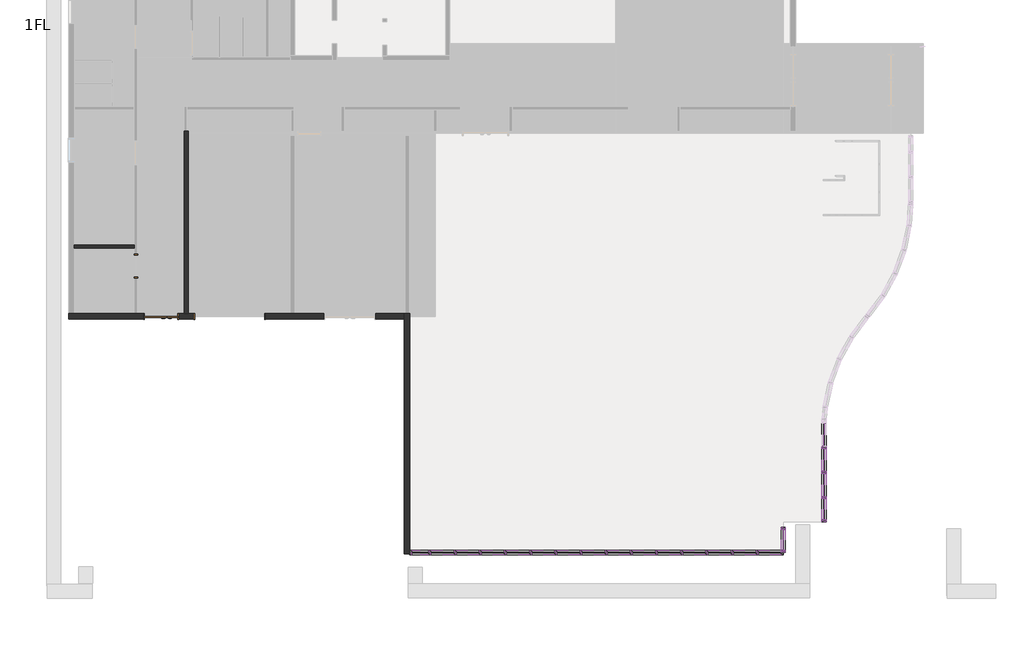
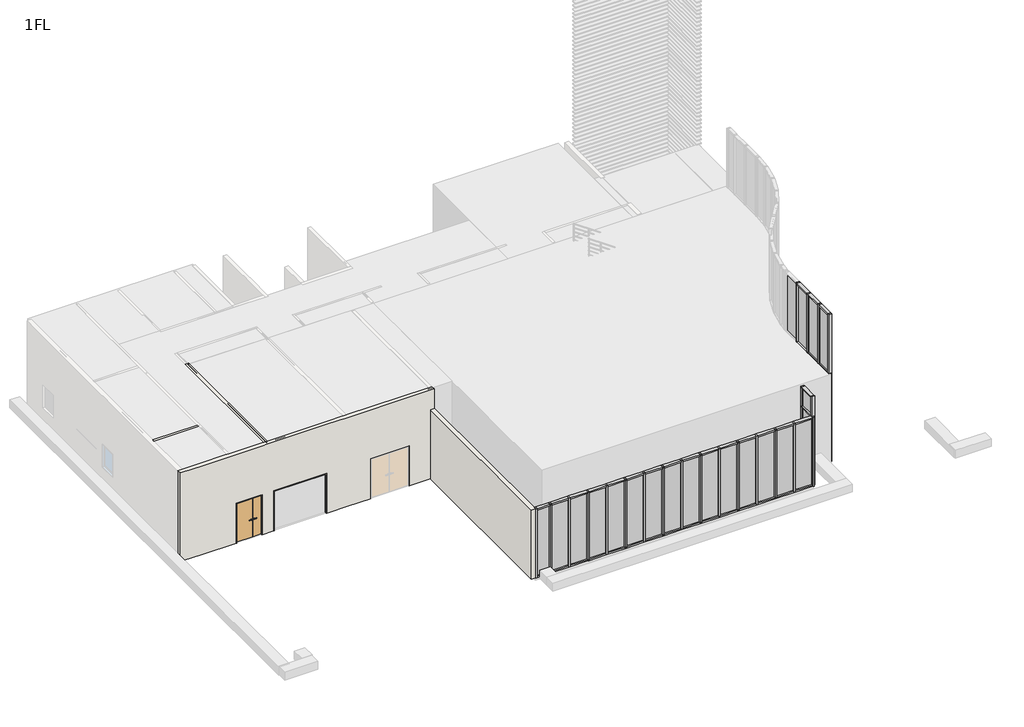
# One storey, part 1 of 4: 78 members, 29 plates, 4 walls, 3 doors.
"""IFC4 building model written with IfcOpenShell, lengths in millimetres."""

from ifc_helpers import new_model, si_unit, frame, origin, place, context, project, spatial, polyline, outline, extrude, faceted_brep, transform, mapped, element, save
from components import door_95390efa, w2500h2000_2_3d9daec4, w800h2000_d76b1b72, member_70x150_cdd4dcf9, member_70x150_9a135ce4, member_70x150_66cf63de, member_70x150_ad4265bc, member_70x150_e0eddb57, member_70x150_76429c73, member_70x150_1b280ac3, member_70x150_96cc92f8, member_70x150_9f54f7b5, member_70x150_bd41fb14, member_70x150_f8cbd96f, member_70x150_4e68411c, plate_28587fd3, plate_4b01b467, plate_83f08a3e, plate_c7cfdf11, plate_46c09de8, plate_d9257b88, plate_582e668a, plate_d9f6aecc

model = new_model("IFC4")

# Units and contexts
model_context = context("Model", 3, world=origin())
ifc_project = project(units=[si_unit("LENGTHUNIT", "METRE", prefix="MILLI")], contexts=[model_context])

# Site, building, storey
site = spatial("IfcSite", under=ifc_project)
building = spatial("IfcBuilding", under=site)
storey = spatial("IfcBuildingStorey", under=building, Name="1FL", Elevation=100.0)

# Doors
placement = place(None, origin())
door_shape = door_95390efa(model_context)
element("IfcDoor", 1, ObjectType="両開き戸 : 親子開き：w1200h2000", at=placement, inside=storey, context=model_context, shape_type="MappedRepresentation", body=[
    mapped(door_shape, transform((-25654.4500107, 3899.6868987, 100.0), x_axis=(-1.0, 0.0, 0.0), y_axis=(0.0, -1.0, 0.0), z_axis=(0.0, 0.0, 1.0))),
])
w2500h2000_2_shape = w2500h2000_2_3d9daec4(model_context)
element("IfcDoor", 2, ObjectType="開口枠あり : w2500h2000 2", at=placement, inside=storey, context=model_context, shape_type="MappedRepresentation", body=[
    mapped(w2500h2000_2_shape, transform((-23195.9784025, 3899.6868987, 100.0), x_axis=(-1.0, 0.0, 0.0), y_axis=(0.0, -1.0, 0.0), z_axis=(0.0, 0.0, 1.0))),
])
w800h2000_shape = w800h2000_d76b1b72(model_context)
element("IfcDoor", 3, ObjectType="開口枠あり : w800h2000", at=placement, inside=storey, context=model_context, shape_type="MappedRepresentation", body=[
    mapped(w800h2000_shape, transform((-26545.9784025, 5699.6868987, 100.0), x_axis=(0.0, 1.0, 0.0), y_axis=(-1.0, 0.0, 0.0), z_axis=(0.0, 0.0, 1.0))),
])

# Members
member_70x150_shape = member_70x150_cdd4dcf9(model_context)
element("IfcMember", 4, ObjectType="長方形のマリオン : 70x150", at=placement, inside=storey, context=model_context, shape_type="MappedRepresentation", body=[
    mapped(member_70x150_shape, transform((-1945.9784025, -2585.3131013, 100.0), x_axis=(0.0, 1.0, 0.0), y_axis=(1.0, 0.0, 0.0), z_axis=(0.0, 0.0, -1.0))),
])
element("IfcMember", 5, ObjectType="長方形のマリオン : 70x150", at=placement, inside=storey, context=model_context, shape_type="MappedRepresentation", body=[
    mapped(member_70x150_shape, transform((-1945.9784025, -1685.3131013, 100.0), x_axis=(0.0, 1.0, 0.0), y_axis=(1.0, 0.0, 0.0), z_axis=(0.0, 0.0, -1.0))),
])
element("IfcMember", 6, ObjectType="長方形のマリオン : 70x150", at=placement, inside=storey, context=model_context, shape_type="MappedRepresentation", body=[
    mapped(member_70x150_shape, transform((-1945.9784025, -785.3131013, 100.0), x_axis=(0.0, 1.0, 0.0), y_axis=(1.0, 0.0, 0.0), z_axis=(0.0, 0.0, -1.0))),
])
member_70x150_2_shape = member_70x150_9a135ce4(model_context)
element("IfcMember", 7, ObjectType="長方形のマリオン : 70x150", at=placement, inside=storey, context=model_context, shape_type="MappedRepresentation", body=[
    mapped(member_70x150_2_shape, transform((-3395.9784025, -4480.3131013, 4600.0), x_axis=(0.0, 0.0, 1.0), y_axis=(-1.0, 0.0, 0.0), z_axis=(0.0, -1.0, 0.0))),
])
element("IfcMember", 8, ObjectType="長方形のマリオン : 70x150", at=placement, inside=storey, context=model_context, shape_type="MappedRepresentation", body=[
    mapped(member_70x150_2_shape, transform((-1945.9784025, -2620.3131013, 7600.0), x_axis=(0.0, 0.0, 1.0), y_axis=(1.0, 0.0, 0.0), z_axis=(0.0, 1.0, 0.0))),
])
member_70x150_3_shape = member_70x150_66cf63de(model_context)
element("IfcMember", 9, ObjectType="長方形のマリオン : 70x150", at=placement, inside=storey, context=model_context, shape_type="MappedRepresentation", body=[
    mapped(member_70x150_3_shape, transform((-8865.9784025, -4550.3131013, 100.0), x_axis=(0.0, 0.0, -1.0), y_axis=(0.0, 1.0, 0.0), z_axis=(1.0, 0.0, 0.0))),
])
element("IfcMember", 10, ObjectType="長方形のマリオン : 70x150", at=placement, inside=storey, context=model_context, shape_type="MappedRepresentation", body=[
    mapped(member_70x150_3_shape, transform((-7965.9784025, -4550.3131013, 100.0), x_axis=(0.0, 0.0, -1.0), y_axis=(0.0, 1.0, 0.0), z_axis=(1.0, 0.0, 0.0))),
])
element("IfcMember", 11, ObjectType="長方形のマリオン : 70x150", at=placement, inside=storey, context=model_context, shape_type="MappedRepresentation", body=[
    mapped(member_70x150_3_shape, transform((-7065.9784025, -4550.3131013, 100.0), x_axis=(0.0, 0.0, -1.0), y_axis=(0.0, 1.0, 0.0), z_axis=(1.0, 0.0, 0.0))),
])
element("IfcMember", 12, ObjectType="長方形のマリオン : 70x150", at=placement, inside=storey, context=model_context, shape_type="MappedRepresentation", body=[
    mapped(member_70x150_3_shape, transform((-6165.9784025, -4550.3131013, 100.0), x_axis=(0.0, 0.0, -1.0), y_axis=(0.0, 1.0, 0.0), z_axis=(1.0, 0.0, 0.0))),
])
element("IfcMember", 13, ObjectType="長方形のマリオン : 70x150", at=placement, inside=storey, context=model_context, shape_type="MappedRepresentation", body=[
    mapped(member_70x150_3_shape, transform((-5265.9784025, -4550.3131013, 100.0), x_axis=(0.0, 0.0, -1.0), y_axis=(0.0, 1.0, 0.0), z_axis=(1.0, 0.0, 0.0))),
])
element("IfcMember", 14, ObjectType="長方形のマリオン : 70x150", at=placement, inside=storey, context=model_context, shape_type="MappedRepresentation", body=[
    mapped(member_70x150_3_shape, transform((-4365.9784025, -4550.3131013, 100.0), x_axis=(0.0, 0.0, -1.0), y_axis=(0.0, 1.0, 0.0), z_axis=(1.0, 0.0, 0.0))),
])
element("IfcMember", 15, ObjectType="長方形のマリオン : 70x150", at=placement, inside=storey, context=model_context, shape_type="MappedRepresentation", body=[
    mapped(member_70x150_3_shape, transform((-3465.9784025, -4550.3131013, 100.0), x_axis=(0.0, 0.0, -1.0), y_axis=(0.0, 1.0, 0.0), z_axis=(1.0, 0.0, 0.0))),
])
element("IfcMember", 16, ObjectType="長方形のマリオン : 70x150", at=placement, inside=storey, context=model_context, shape_type="MappedRepresentation", body=[
    mapped(member_70x150_3_shape, transform((-15165.9784025, -4550.3131013, 100.0), x_axis=(0.0, 0.0, -1.0), y_axis=(0.0, 1.0, 0.0), z_axis=(1.0, 0.0, 0.0))),
])
element("IfcMember", 17, ObjectType="長方形のマリオン : 70x150", at=placement, inside=storey, context=model_context, shape_type="MappedRepresentation", body=[
    mapped(member_70x150_3_shape, transform((-14265.9784025, -4550.3131013, 100.0), x_axis=(0.0, 0.0, -1.0), y_axis=(0.0, 1.0, 0.0), z_axis=(1.0, 0.0, 0.0))),
])
element("IfcMember", 18, ObjectType="長方形のマリオン : 70x150", at=placement, inside=storey, context=model_context, shape_type="MappedRepresentation", body=[
    mapped(member_70x150_3_shape, transform((-13365.9784025, -4550.3131013, 100.0), x_axis=(0.0, 0.0, -1.0), y_axis=(0.0, 1.0, 0.0), z_axis=(1.0, 0.0, 0.0))),
])
element("IfcMember", 19, ObjectType="長方形のマリオン : 70x150", at=placement, inside=storey, context=model_context, shape_type="MappedRepresentation", body=[
    mapped(member_70x150_3_shape, transform((-12465.9784025, -4550.3131013, 100.0), x_axis=(0.0, 0.0, -1.0), y_axis=(0.0, 1.0, 0.0), z_axis=(1.0, 0.0, 0.0))),
])
element("IfcMember", 20, ObjectType="長方形のマリオン : 70x150", at=placement, inside=storey, context=model_context, shape_type="MappedRepresentation", body=[
    mapped(member_70x150_3_shape, transform((-11565.9784025, -4550.3131013, 100.0), x_axis=(0.0, 0.0, -1.0), y_axis=(0.0, 1.0, 0.0), z_axis=(1.0, 0.0, 0.0))),
])
element("IfcMember", 21, ObjectType="長方形のマリオン : 70x150", at=placement, inside=storey, context=model_context, shape_type="MappedRepresentation", body=[
    mapped(member_70x150_3_shape, transform((-10665.9784025, -4550.3131013, 100.0), x_axis=(0.0, 0.0, -1.0), y_axis=(0.0, 1.0, 0.0), z_axis=(1.0, 0.0, 0.0))),
])
element("IfcMember", 22, ObjectType="長方形のマリオン : 70x150", at=placement, inside=storey, context=model_context, shape_type="MappedRepresentation", body=[
    mapped(member_70x150_3_shape, transform((-9765.9784025, -4550.3131013, 100.0), x_axis=(0.0, 0.0, -1.0), y_axis=(0.0, 1.0, 0.0), z_axis=(1.0, 0.0, 0.0))),
])
element("IfcMember", 23, ObjectType="長方形のマリオン : 70x150", at=placement, inside=storey, context=model_context, shape_type="MappedRepresentation", body=[
    mapped(member_70x150_3_shape, transform((-1945.9784025, -2550.3131013, 100.0), x_axis=(0.0, 0.0, -1.0), y_axis=(1.0, 0.0, 0.0), z_axis=(0.0, -1.0, 0.0))),
])
element("IfcMember", 24, ObjectType="長方形のマリオン : 70x150", at=placement, inside=storey, context=model_context, shape_type="MappedRepresentation", body=[
    mapped(member_70x150_3_shape, transform((-1945.9784025, -1650.3131013, 100.0), x_axis=(0.0, 0.0, -1.0), y_axis=(1.0, 0.0, 0.0), z_axis=(0.0, -1.0, 0.0))),
])
element("IfcMember", 25, ObjectType="長方形のマリオン : 70x150", at=placement, inside=storey, context=model_context, shape_type="MappedRepresentation", body=[
    mapped(member_70x150_3_shape, transform((-1945.9784025, -750.3131013, 100.0), x_axis=(0.0, 0.0, -1.0), y_axis=(1.0, 0.0, 0.0), z_axis=(0.0, -1.0, 0.0))),
])
element("IfcMember", 26, ObjectType="長方形のマリオン : 70x150", at=placement, inside=storey, context=model_context, shape_type="MappedRepresentation", body=[
    mapped(member_70x150_3_shape, transform((-15995.9784025, -4550.3131013, 3600.0), x_axis=(0.0, 0.0, 1.0), y_axis=(0.0, 1.0, 0.0), z_axis=(-1.0, 0.0, 0.0))),
])
element("IfcMember", 27, ObjectType="長方形のマリオン : 70x150", at=placement, inside=storey, context=model_context, shape_type="MappedRepresentation", body=[
    mapped(member_70x150_3_shape, transform((-15095.9784025, -4550.3131013, 3600.0), x_axis=(0.0, 0.0, 1.0), y_axis=(0.0, 1.0, 0.0), z_axis=(-1.0, 0.0, 0.0))),
])
element("IfcMember", 28, ObjectType="長方形のマリオン : 70x150", at=placement, inside=storey, context=model_context, shape_type="MappedRepresentation", body=[
    mapped(member_70x150_3_shape, transform((-14195.9784025, -4550.3131013, 3600.0), x_axis=(0.0, 0.0, 1.0), y_axis=(0.0, 1.0, 0.0), z_axis=(-1.0, 0.0, 0.0))),
])
element("IfcMember", 29, ObjectType="長方形のマリオン : 70x150", at=placement, inside=storey, context=model_context, shape_type="MappedRepresentation", body=[
    mapped(member_70x150_3_shape, transform((-13295.9784025, -4550.3131013, 3600.0), x_axis=(0.0, 0.0, 1.0), y_axis=(0.0, 1.0, 0.0), z_axis=(-1.0, 0.0, 0.0))),
])
element("IfcMember", 30, ObjectType="長方形のマリオン : 70x150", at=placement, inside=storey, context=model_context, shape_type="MappedRepresentation", body=[
    mapped(member_70x150_3_shape, transform((-12395.9784025, -4550.3131013, 3600.0), x_axis=(0.0, 0.0, 1.0), y_axis=(0.0, 1.0, 0.0), z_axis=(-1.0, 0.0, 0.0))),
])
element("IfcMember", 31, ObjectType="長方形のマリオン : 70x150", at=placement, inside=storey, context=model_context, shape_type="MappedRepresentation", body=[
    mapped(member_70x150_3_shape, transform((-11495.9784025, -4550.3131013, 3600.0), x_axis=(0.0, 0.0, 1.0), y_axis=(0.0, 1.0, 0.0), z_axis=(-1.0, 0.0, 0.0))),
])
element("IfcMember", 32, ObjectType="長方形のマリオン : 70x150", at=placement, inside=storey, context=model_context, shape_type="MappedRepresentation", body=[
    mapped(member_70x150_3_shape, transform((-10595.9784025, -4550.3131013, 3600.0), x_axis=(0.0, 0.0, 1.0), y_axis=(0.0, 1.0, 0.0), z_axis=(-1.0, 0.0, 0.0))),
])
element("IfcMember", 33, ObjectType="長方形のマリオン : 70x150", at=placement, inside=storey, context=model_context, shape_type="MappedRepresentation", body=[
    mapped(member_70x150_3_shape, transform((-9695.9784025, -4550.3131013, 3600.0), x_axis=(0.0, 0.0, 1.0), y_axis=(0.0, 1.0, 0.0), z_axis=(-1.0, 0.0, 0.0))),
])
element("IfcMember", 34, ObjectType="長方形のマリオン : 70x150", at=placement, inside=storey, context=model_context, shape_type="MappedRepresentation", body=[
    mapped(member_70x150_3_shape, transform((-8795.9784025, -4550.3131013, 3600.0), x_axis=(0.0, 0.0, 1.0), y_axis=(0.0, 1.0, 0.0), z_axis=(-1.0, 0.0, 0.0))),
])
element("IfcMember", 35, ObjectType="長方形のマリオン : 70x150", at=placement, inside=storey, context=model_context, shape_type="MappedRepresentation", body=[
    mapped(member_70x150_3_shape, transform((-7895.9784025, -4550.3131013, 3600.0), x_axis=(0.0, 0.0, 1.0), y_axis=(0.0, 1.0, 0.0), z_axis=(-1.0, 0.0, 0.0))),
])
element("IfcMember", 36, ObjectType="長方形のマリオン : 70x150", at=placement, inside=storey, context=model_context, shape_type="MappedRepresentation", body=[
    mapped(member_70x150_3_shape, transform((-6995.9784025, -4550.3131013, 3600.0), x_axis=(0.0, 0.0, 1.0), y_axis=(0.0, 1.0, 0.0), z_axis=(-1.0, 0.0, 0.0))),
])
element("IfcMember", 37, ObjectType="長方形のマリオン : 70x150", at=placement, inside=storey, context=model_context, shape_type="MappedRepresentation", body=[
    mapped(member_70x150_3_shape, transform((-6095.9784025, -4550.3131013, 3600.0), x_axis=(0.0, 0.0, 1.0), y_axis=(0.0, 1.0, 0.0), z_axis=(-1.0, 0.0, 0.0))),
])
element("IfcMember", 38, ObjectType="長方形のマリオン : 70x150", at=placement, inside=storey, context=model_context, shape_type="MappedRepresentation", body=[
    mapped(member_70x150_3_shape, transform((-5195.9784025, -4550.3131013, 3600.0), x_axis=(0.0, 0.0, 1.0), y_axis=(0.0, 1.0, 0.0), z_axis=(-1.0, 0.0, 0.0))),
])
element("IfcMember", 39, ObjectType="長方形のマリオン : 70x150", at=placement, inside=storey, context=model_context, shape_type="MappedRepresentation", body=[
    mapped(member_70x150_3_shape, transform((-4295.9784025, -4550.3131013, 3600.0), x_axis=(0.0, 0.0, 1.0), y_axis=(0.0, 1.0, 0.0), z_axis=(-1.0, 0.0, 0.0))),
])
element("IfcMember", 40, ObjectType="長方形のマリオン : 70x150", at=placement, inside=storey, context=model_context, shape_type="MappedRepresentation", body=[
    mapped(member_70x150_3_shape, transform((-1945.9784025, -1720.3131013, 7600.0), x_axis=(0.0, 0.0, 1.0), y_axis=(1.0, 0.0, 0.0), z_axis=(0.0, 1.0, 0.0))),
])
element("IfcMember", 41, ObjectType="長方形のマリオン : 70x150", at=placement, inside=storey, context=model_context, shape_type="MappedRepresentation", body=[
    mapped(member_70x150_3_shape, transform((-1945.9784025, -820.3131013, 7600.0), x_axis=(0.0, 0.0, 1.0), y_axis=(1.0, 0.0, 0.0), z_axis=(0.0, 1.0, 0.0))),
])
element("IfcMember", 42, ObjectType="長方形のマリオン : 70x150", at=placement, inside=storey, context=model_context, shape_type="MappedRepresentation", body=[
    mapped(member_70x150_2_shape, transform((-3395.9784025, -3720.3131013, 100.0), x_axis=(0.0, 0.0, -1.0), y_axis=(-1.0, 0.0, 0.0), z_axis=(0.0, 1.0, 0.0))),
])
element("IfcMember", 43, ObjectType="長方形のマリオン : 70x150", at=placement, inside=storey, context=model_context, shape_type="MappedRepresentation", body=[
    mapped(member_70x150_2_shape, transform((-1945.9784025, -3380.3131013, 100.0), x_axis=(0.0, 0.0, -1.0), y_axis=(1.0, 0.0, 0.0), z_axis=(0.0, -1.0, 0.0))),
])
member_70x150_4_shape = member_70x150_ad4265bc(model_context)
element("IfcMember", 44, ObjectType="長方形のマリオン : 70x150", at=placement, inside=storey, context=model_context, shape_type="MappedRepresentation", body=[
    mapped(member_70x150_4_shape, transform((-1945.9784025, -1720.3131013, 3100.0), x_axis=(0.0, 0.0, 1.0), y_axis=(1.0, 0.0, 0.0), z_axis=(0.0, 1.0, 0.0))),
])
element("IfcMember", 45, ObjectType="長方形のマリオン : 70x150", at=placement, inside=storey, context=model_context, shape_type="MappedRepresentation", body=[
    mapped(member_70x150_4_shape, transform((-1945.9784025, -820.3131013, 3100.0), x_axis=(0.0, 0.0, 1.0), y_axis=(1.0, 0.0, 0.0), z_axis=(0.0, 1.0, 0.0))),
])
element("IfcMember", 46, ObjectType="長方形のマリオン : 70x150", at=placement, inside=storey, context=model_context, shape_type="MappedRepresentation", body=[
    mapped(member_70x150_4_shape, transform((-1945.9784025, -1720.3131013, 4600.0), x_axis=(0.0, 0.0, 1.0), y_axis=(1.0, 0.0, 0.0), z_axis=(0.0, 1.0, 0.0))),
])
element("IfcMember", 47, ObjectType="長方形のマリオン : 70x150", at=placement, inside=storey, context=model_context, shape_type="MappedRepresentation", body=[
    mapped(member_70x150_4_shape, transform((-1945.9784025, -820.3131013, 4600.0), x_axis=(0.0, 0.0, 1.0), y_axis=(1.0, 0.0, 0.0), z_axis=(0.0, 1.0, 0.0))),
])
member_70x150_5_shape = member_70x150_e0eddb57(model_context)
element("IfcMember", 48, ObjectType="長方形のマリオン : 70x150", at=placement, inside=storey, context=model_context, shape_type="MappedRepresentation", body=[
    mapped(member_70x150_5_shape, transform((-3395.9784025, -4480.3131013, 3600.0), x_axis=(0.0, 0.0, 1.0), y_axis=(-1.0, 0.0, 0.0), z_axis=(0.0, -1.0, 0.0))),
])
element("IfcMember", 49, ObjectType="長方形のマリオン : 70x150", at=placement, inside=storey, context=model_context, shape_type="MappedRepresentation", body=[
    mapped(member_70x150_5_shape, transform((-1945.9784025, -2620.3131013, 3100.0), x_axis=(0.0, 0.0, 1.0), y_axis=(1.0, 0.0, 0.0), z_axis=(0.0, 1.0, 0.0))),
])
element("IfcMember", 50, ObjectType="長方形のマリオン : 70x150", at=placement, inside=storey, context=model_context, shape_type="MappedRepresentation", body=[
    mapped(member_70x150_5_shape, transform((-1945.9784025, -2620.3131013, 4600.0), x_axis=(0.0, 0.0, 1.0), y_axis=(1.0, 0.0, 0.0), z_axis=(0.0, 1.0, 0.0))),
])
member_70x150_6_shape = member_70x150_76429c73(model_context)
element("IfcMember", 51, ObjectType="長方形のマリオン : 70x150", at=placement, inside=storey, context=model_context, shape_type="MappedRepresentation", body=[
    mapped(member_70x150_6_shape, transform((-3395.9784025, -3650.3131013, 4600.0), x_axis=(0.0, 1.0, 0.0), y_axis=(-1.0, 0.0, 0.0), z_axis=(0.0, 0.0, 1.0))),
])
element("IfcMember", 52, ObjectType="長方形のマリオン : 70x150", at=placement, inside=storey, context=model_context, shape_type="MappedRepresentation", body=[
    mapped(member_70x150_6_shape, transform((-3395.9784025, -4550.3131013, 3600.0), x_axis=(0.0, -1.0, 0.0), y_axis=(-1.0, 0.0, 0.0), z_axis=(0.0, 0.0, -1.0))),
])
member_70x150_7_shape = member_70x150_1b280ac3(model_context)
element("IfcMember", 53, ObjectType="長方形のマリオン : 70x150", at=placement, inside=storey, context=model_context, shape_type="MappedRepresentation", body=[
    mapped(member_70x150_7_shape, transform((-1945.9784025, -3450.3131013, 3100.0), x_axis=(0.0, -1.0, 0.0), y_axis=(1.0, 0.0, 0.0), z_axis=(0.0, 0.0, 1.0))),
])
member_70x150_8_shape = member_70x150_96cc92f8(model_context)
element("IfcMember", 54, ObjectType="長方形のマリオン : 70x150", at=placement, inside=storey, context=model_context, shape_type="MappedRepresentation", body=[
    mapped(member_70x150_8_shape, transform((-16030.9784025, -4550.3131013, 100.0), x_axis=(-1.0, 0.0, 0.0), y_axis=(0.0, 1.0, 0.0), z_axis=(0.0, 0.0, -1.0))),
])
element("IfcMember", 55, ObjectType="長方形のマリオン : 70x150", at=placement, inside=storey, context=model_context, shape_type="MappedRepresentation", body=[
    mapped(member_70x150_8_shape, transform((-15130.9784025, -4550.3131013, 100.0), x_axis=(-1.0, 0.0, 0.0), y_axis=(0.0, 1.0, 0.0), z_axis=(0.0, 0.0, -1.0))),
])
element("IfcMember", 56, ObjectType="長方形のマリオン : 70x150", at=placement, inside=storey, context=model_context, shape_type="MappedRepresentation", body=[
    mapped(member_70x150_8_shape, transform((-14230.9784025, -4550.3131013, 100.0), x_axis=(-1.0, 0.0, 0.0), y_axis=(0.0, 1.0, 0.0), z_axis=(0.0, 0.0, -1.0))),
])
element("IfcMember", 57, ObjectType="長方形のマリオン : 70x150", at=placement, inside=storey, context=model_context, shape_type="MappedRepresentation", body=[
    mapped(member_70x150_8_shape, transform((-13330.9784025, -4550.3131013, 100.0), x_axis=(-1.0, 0.0, 0.0), y_axis=(0.0, 1.0, 0.0), z_axis=(0.0, 0.0, -1.0))),
])
element("IfcMember", 58, ObjectType="長方形のマリオン : 70x150", at=placement, inside=storey, context=model_context, shape_type="MappedRepresentation", body=[
    mapped(member_70x150_8_shape, transform((-12430.9784025, -4550.3131013, 100.0), x_axis=(-1.0, 0.0, 0.0), y_axis=(0.0, 1.0, 0.0), z_axis=(0.0, 0.0, -1.0))),
])
element("IfcMember", 59, ObjectType="長方形のマリオン : 70x150", at=placement, inside=storey, context=model_context, shape_type="MappedRepresentation", body=[
    mapped(member_70x150_8_shape, transform((-11530.9784025, -4550.3131013, 100.0), x_axis=(-1.0, 0.0, 0.0), y_axis=(0.0, 1.0, 0.0), z_axis=(0.0, 0.0, -1.0))),
])
element("IfcMember", 60, ObjectType="長方形のマリオン : 70x150", at=placement, inside=storey, context=model_context, shape_type="MappedRepresentation", body=[
    mapped(member_70x150_8_shape, transform((-10630.9784025, -4550.3131013, 100.0), x_axis=(-1.0, 0.0, 0.0), y_axis=(0.0, 1.0, 0.0), z_axis=(0.0, 0.0, -1.0))),
])
element("IfcMember", 61, ObjectType="長方形のマリオン : 70x150", at=placement, inside=storey, context=model_context, shape_type="MappedRepresentation", body=[
    mapped(member_70x150_8_shape, transform((-9730.9784025, -4550.3131013, 100.0), x_axis=(-1.0, 0.0, 0.0), y_axis=(0.0, 1.0, 0.0), z_axis=(0.0, 0.0, -1.0))),
])
element("IfcMember", 62, ObjectType="長方形のマリオン : 70x150", at=placement, inside=storey, context=model_context, shape_type="MappedRepresentation", body=[
    mapped(member_70x150_8_shape, transform((-8830.9784025, -4550.3131013, 100.0), x_axis=(-1.0, 0.0, 0.0), y_axis=(0.0, 1.0, 0.0), z_axis=(0.0, 0.0, -1.0))),
])
element("IfcMember", 63, ObjectType="長方形のマリオン : 70x150", at=placement, inside=storey, context=model_context, shape_type="MappedRepresentation", body=[
    mapped(member_70x150_8_shape, transform((-7930.9784025, -4550.3131013, 100.0), x_axis=(-1.0, 0.0, 0.0), y_axis=(0.0, 1.0, 0.0), z_axis=(0.0, 0.0, -1.0))),
])
element("IfcMember", 64, ObjectType="長方形のマリオン : 70x150", at=placement, inside=storey, context=model_context, shape_type="MappedRepresentation", body=[
    mapped(member_70x150_8_shape, transform((-7030.9784025, -4550.3131013, 100.0), x_axis=(-1.0, 0.0, 0.0), y_axis=(0.0, 1.0, 0.0), z_axis=(0.0, 0.0, -1.0))),
])
element("IfcMember", 65, ObjectType="長方形のマリオン : 70x150", at=placement, inside=storey, context=model_context, shape_type="MappedRepresentation", body=[
    mapped(member_70x150_8_shape, transform((-6130.9784025, -4550.3131013, 100.0), x_axis=(-1.0, 0.0, 0.0), y_axis=(0.0, 1.0, 0.0), z_axis=(0.0, 0.0, -1.0))),
])
element("IfcMember", 66, ObjectType="長方形のマリオン : 70x150", at=placement, inside=storey, context=model_context, shape_type="MappedRepresentation", body=[
    mapped(member_70x150_8_shape, transform((-5230.9784025, -4550.3131013, 100.0), x_axis=(-1.0, 0.0, 0.0), y_axis=(0.0, 1.0, 0.0), z_axis=(0.0, 0.0, -1.0))),
])
element("IfcMember", 67, ObjectType="長方形のマリオン : 70x150", at=placement, inside=storey, context=model_context, shape_type="MappedRepresentation", body=[
    mapped(member_70x150_8_shape, transform((-4330.9784025, -4550.3131013, 100.0), x_axis=(-1.0, 0.0, 0.0), y_axis=(0.0, 1.0, 0.0), z_axis=(0.0, 0.0, -1.0))),
])
member_70x150_9_shape = member_70x150_9f54f7b5(model_context)
element("IfcMember", 68, ObjectType="長方形のマリオン : 70x150", at=placement, inside=storey, context=model_context, shape_type="MappedRepresentation", body=[
    mapped(member_70x150_9_shape, transform((-16675.9784025, -4550.3131013, 3600.0), x_axis=(0.0, 0.0, 1.0), y_axis=(0.0, 1.0, 0.0), z_axis=(-1.0, 0.0, 0.0))),
])
element("IfcMember", 69, ObjectType="長方形のマリオン : 70x150", at=placement, inside=storey, context=model_context, shape_type="MappedRepresentation", body=[
    mapped(member_70x150_9_shape, transform((-16065.9784025, -4550.3131013, 100.0), x_axis=(0.0, 0.0, -1.0), y_axis=(0.0, 1.0, 0.0), z_axis=(1.0, 0.0, 0.0))),
])
member_70x150_10_shape = member_70x150_bd41fb14(model_context)
element("IfcMember", 70, ObjectType="長方形のマリオン : 70x150", at=placement, inside=storey, context=model_context, shape_type="MappedRepresentation", body=[
    mapped(member_70x150_10_shape, transform((-16745.9784025, -4550.3131013, 100.0), x_axis=(-1.0, 0.0, 0.0), y_axis=(0.0, 1.0, 0.0), z_axis=(0.0, 0.0, -1.0))),
])
element("IfcMember", 71, ObjectType="長方形のマリオン : 70x150", at=placement, inside=storey, context=model_context, shape_type="MappedRepresentation", body=[
    mapped(member_70x150_10_shape, transform((-3395.9784025, -4550.3131013, 3600.0), x_axis=(1.0, 0.0, 0.0), y_axis=(0.0, 1.0, 0.0), z_axis=(0.0, 0.0, 1.0))),
])
element("IfcMember", 72, ObjectType="長方形のマリオン : 70x150", at=placement, inside=storey, context=model_context, shape_type="MappedRepresentation", body=[
    mapped(member_70x150_10_shape, transform((-3395.9784025, -3650.3131013, 3600.0), x_axis=(0.0, 1.0, 0.0), y_axis=(-1.0, 0.0, 0.0), z_axis=(0.0, 0.0, 1.0))),
])
element("IfcMember", 73, ObjectType="長方形のマリオン : 70x150", at=placement, inside=storey, context=model_context, shape_type="MappedRepresentation", body=[
    mapped(member_70x150_10_shape, transform((-3395.9784025, -4550.3131013, 100.0), x_axis=(0.0, -1.0, 0.0), y_axis=(-1.0, 0.0, 0.0), z_axis=(0.0, 0.0, -1.0))),
])
member_70x150_11_shape = member_70x150_f8cbd96f(model_context)
element("IfcMember", 74, ObjectType="長方形のマリオン : 70x150", at=placement, inside=storey, context=model_context, shape_type="MappedRepresentation", body=[
    mapped(member_70x150_11_shape, transform((-1945.9784025, -785.3131013, 3100.0), x_axis=(0.0, 1.0, 0.0), y_axis=(1.0, 0.0, 0.0), z_axis=(0.0, 0.0, -1.0))),
])
element("IfcMember", 75, ObjectType="長方形のマリオン : 70x150", at=placement, inside=storey, context=model_context, shape_type="MappedRepresentation", body=[
    mapped(member_70x150_11_shape, transform((-1945.9784025, -1685.3131013, 3100.0), x_axis=(0.0, 1.0, 0.0), y_axis=(1.0, 0.0, 0.0), z_axis=(0.0, 0.0, -1.0))),
])
element("IfcMember", 76, ObjectType="長方形のマリオン : 70x150", at=placement, inside=storey, context=model_context, shape_type="MappedRepresentation", body=[
    mapped(member_70x150_11_shape, transform((-1945.9784025, -2585.3131013, 3100.0), x_axis=(0.0, 1.0, 0.0), y_axis=(1.0, 0.0, 0.0), z_axis=(0.0, 0.0, -1.0))),
])
element("IfcMember", 77, ObjectType="長方形のマリオン : 70x150", at=placement, inside=storey, context=model_context, shape_type="MappedRepresentation", body=[
    mapped(member_70x150_shape, transform((-1945.9784025, -1685.3131013, 4600.0), x_axis=(0.0, 1.0, 0.0), y_axis=(1.0, 0.0, 0.0), z_axis=(0.0, 0.0, -1.0))),
])
element("IfcMember", 78, ObjectType="長方形のマリオン : 70x150", at=placement, inside=storey, context=model_context, shape_type="MappedRepresentation", body=[
    mapped(member_70x150_shape, transform((-1945.9784025, -785.3131013, 4600.0), x_axis=(0.0, 1.0, 0.0), y_axis=(1.0, 0.0, 0.0), z_axis=(0.0, 0.0, -1.0))),
])
element("IfcMember", 79, ObjectType="長方形のマリオン : 70x150", at=placement, inside=storey, context=model_context, shape_type="MappedRepresentation", body=[
    mapped(member_70x150_shape, transform((-1945.9784025, -2585.3131013, 4600.0), x_axis=(0.0, 1.0, 0.0), y_axis=(1.0, 0.0, 0.0), z_axis=(0.0, 0.0, -1.0))),
])
member_70x150_12_shape = member_70x150_4e68411c(model_context)
element("IfcMember", 80, ObjectType="長方形のマリオン : 70x150", at=placement, inside=storey, context=model_context, shape_type="MappedRepresentation", body=[
    mapped(member_70x150_12_shape, transform((-1945.9784025, -3450.3131013, 4600.0), x_axis=(0.0, -1.0, 0.0), y_axis=(1.0, 0.0, 0.0), z_axis=(0.0, 0.0, 1.0))),
])
element("IfcMember", 81, ObjectType="長方形のマリオン : 70x150", at=placement, inside=storey, context=model_context, shape_type="MappedRepresentation", body=[
    mapped(member_70x150_7_shape, transform((-1945.9784025, -3450.3131013, 7600.0), x_axis=(0.0, -1.0, 0.0), y_axis=(1.0, 0.0, 0.0), z_axis=(0.0, 0.0, 1.0))),
])

# Plates
plate_shape = plate_28587fd3(model_context)
element("IfcPlate", 82, ObjectType="システム パネル : 標準", at=placement, inside=storey, context=model_context, shape_type="MappedRepresentation", body=[
    mapped(plate_shape, transform((-1945.9784025, -2135.3131013, 170.0), x_axis=(0.0, 1.0, 0.0), y_axis=(-1.0, 0.0, 0.0), z_axis=(0.0, 0.0, 1.0))),
])
element("IfcPlate", 83, ObjectType="システム パネル : 標準", at=placement, inside=storey, context=model_context, shape_type="MappedRepresentation", body=[
    mapped(plate_shape, transform((-1945.9784025, -1235.3131013, 170.0), x_axis=(0.0, 1.0, 0.0), y_axis=(-1.0, 0.0, 0.0), z_axis=(0.0, 0.0, 1.0))),
])
element("IfcPlate", 84, ObjectType="システム パネル : 標準", at=placement, inside=storey, context=model_context, shape_type="MappedRepresentation", body=[
    mapped(plate_shape, transform((-1945.9784025, -335.3131013, 170.0), x_axis=(0.0, 1.0, 0.0), y_axis=(-1.0, 0.0, 0.0), z_axis=(0.0, 0.0, 1.0))),
])
element("IfcPlate", 85, ObjectType="システム パネル : 標準", at=placement, inside=storey, context=model_context, shape_type="MappedRepresentation", body=[
    mapped(plate_shape, transform((-1945.9784025, -2135.3131013, 4635.0), x_axis=(0.0, 1.0, 0.0), y_axis=(-1.0, 0.0, 0.0), z_axis=(0.0, 0.0, 1.0))),
])
element("IfcPlate", 86, ObjectType="システム パネル : 標準", at=placement, inside=storey, context=model_context, shape_type="MappedRepresentation", body=[
    mapped(plate_shape, transform((-1945.9784025, -1235.3131013, 4635.0), x_axis=(0.0, 1.0, 0.0), y_axis=(-1.0, 0.0, 0.0), z_axis=(0.0, 0.0, 1.0))),
])
element("IfcPlate", 87, ObjectType="システム パネル : 標準", at=placement, inside=storey, context=model_context, shape_type="MappedRepresentation", body=[
    mapped(plate_shape, transform((-1945.9784025, -335.3131013, 4635.0), x_axis=(0.0, 1.0, 0.0), y_axis=(-1.0, 0.0, 0.0), z_axis=(0.0, 0.0, 1.0))),
])
plate_2_shape = plate_4b01b467(model_context)
element("IfcPlate", 88, ObjectType="システム パネル : 標準", at=placement, inside=storey, context=model_context, shape_type="MappedRepresentation", body=[
    mapped(plate_2_shape, transform((-1945.9784025, -3000.3131013, 170.0), x_axis=(0.0, 1.0, 0.0), y_axis=(-1.0, 0.0, 0.0), z_axis=(0.0, 0.0, 1.0))),
])
element("IfcPlate", 89, ObjectType="システム パネル : 標準", at=placement, inside=storey, context=model_context, shape_type="MappedRepresentation", body=[
    mapped(plate_2_shape, transform((-1945.9784025, -3000.3131013, 4635.0), x_axis=(0.0, 1.0, 0.0), y_axis=(-1.0, 0.0, 0.0), z_axis=(0.0, 0.0, 1.0))),
])
plate_3_shape = plate_83f08a3e(model_context)
element("IfcPlate", 90, ObjectType="システム パネル : 標準", at=placement, inside=storey, context=model_context, shape_type="MappedRepresentation", body=[
    mapped(plate_3_shape, transform((-3395.9784025, -4100.3131013, 3635.0), x_axis=(0.0, -1.0, 0.0), y_axis=(1.0, 0.0, 0.0), z_axis=(0.0, 0.0, 1.0))),
])
plate_4_shape = plate_c7cfdf11(model_context)
element("IfcPlate", 91, ObjectType="システム パネル : 標準", at=placement, inside=storey, context=model_context, shape_type="MappedRepresentation", body=[
    mapped(plate_4_shape, transform((-3880.9784025, -4550.3131013, 170.0), x_axis=(-1.0, 0.0, 0.0), y_axis=(0.0, -1.0, 0.0), z_axis=(0.0, 0.0, 1.0))),
])
element("IfcPlate", 92, ObjectType="システム パネル : 標準", at=placement, inside=storey, context=model_context, shape_type="MappedRepresentation", body=[
    mapped(plate_4_shape, transform((-4780.9784025, -4550.3131013, 170.0), x_axis=(-1.0, 0.0, 0.0), y_axis=(0.0, -1.0, 0.0), z_axis=(0.0, 0.0, 1.0))),
])
element("IfcPlate", 93, ObjectType="システム パネル : 標準", at=placement, inside=storey, context=model_context, shape_type="MappedRepresentation", body=[
    mapped(plate_4_shape, transform((-5680.9784025, -4550.3131013, 170.0), x_axis=(-1.0, 0.0, 0.0), y_axis=(0.0, -1.0, 0.0), z_axis=(0.0, 0.0, 1.0))),
])
element("IfcPlate", 94, ObjectType="システム パネル : 標準", at=placement, inside=storey, context=model_context, shape_type="MappedRepresentation", body=[
    mapped(plate_4_shape, transform((-6580.9784025, -4550.3131013, 170.0), x_axis=(-1.0, 0.0, 0.0), y_axis=(0.0, -1.0, 0.0), z_axis=(0.0, 0.0, 1.0))),
])
element("IfcPlate", 95, ObjectType="システム パネル : 標準", at=placement, inside=storey, context=model_context, shape_type="MappedRepresentation", body=[
    mapped(plate_4_shape, transform((-7480.9784025, -4550.3131013, 170.0), x_axis=(-1.0, 0.0, 0.0), y_axis=(0.0, -1.0, 0.0), z_axis=(0.0, 0.0, 1.0))),
])
element("IfcPlate", 96, ObjectType="システム パネル : 標準", at=placement, inside=storey, context=model_context, shape_type="MappedRepresentation", body=[
    mapped(plate_4_shape, transform((-8380.9784025, -4550.3131013, 170.0), x_axis=(-1.0, 0.0, 0.0), y_axis=(0.0, -1.0, 0.0), z_axis=(0.0, 0.0, 1.0))),
])
element("IfcPlate", 97, ObjectType="システム パネル : 標準", at=placement, inside=storey, context=model_context, shape_type="MappedRepresentation", body=[
    mapped(plate_4_shape, transform((-9280.9784025, -4550.3131013, 170.0), x_axis=(-1.0, 0.0, 0.0), y_axis=(0.0, -1.0, 0.0), z_axis=(0.0, 0.0, 1.0))),
])
element("IfcPlate", 98, ObjectType="システム パネル : 標準", at=placement, inside=storey, context=model_context, shape_type="MappedRepresentation", body=[
    mapped(plate_4_shape, transform((-10180.9784025, -4550.3131013, 170.0), x_axis=(-1.0, 0.0, 0.0), y_axis=(0.0, -1.0, 0.0), z_axis=(0.0, 0.0, 1.0))),
])
element("IfcPlate", 99, ObjectType="システム パネル : 標準", at=placement, inside=storey, context=model_context, shape_type="MappedRepresentation", body=[
    mapped(plate_4_shape, transform((-11080.9784025, -4550.3131013, 170.0), x_axis=(-1.0, 0.0, 0.0), y_axis=(0.0, -1.0, 0.0), z_axis=(0.0, 0.0, 1.0))),
])
element("IfcPlate", 100, ObjectType="システム パネル : 標準", at=placement, inside=storey, context=model_context, shape_type="MappedRepresentation", body=[
    mapped(plate_4_shape, transform((-11980.9784025, -4550.3131013, 170.0), x_axis=(-1.0, 0.0, 0.0), y_axis=(0.0, -1.0, 0.0), z_axis=(0.0, 0.0, 1.0))),
])
element("IfcPlate", 101, ObjectType="システム パネル : 標準", at=placement, inside=storey, context=model_context, shape_type="MappedRepresentation", body=[
    mapped(plate_4_shape, transform((-12880.9784025, -4550.3131013, 170.0), x_axis=(-1.0, 0.0, 0.0), y_axis=(0.0, -1.0, 0.0), z_axis=(0.0, 0.0, 1.0))),
])
element("IfcPlate", 102, ObjectType="システム パネル : 標準", at=placement, inside=storey, context=model_context, shape_type="MappedRepresentation", body=[
    mapped(plate_4_shape, transform((-13780.9784025, -4550.3131013, 170.0), x_axis=(-1.0, 0.0, 0.0), y_axis=(0.0, -1.0, 0.0), z_axis=(0.0, 0.0, 1.0))),
])
element("IfcPlate", 103, ObjectType="システム パネル : 標準", at=placement, inside=storey, context=model_context, shape_type="MappedRepresentation", body=[
    mapped(plate_4_shape, transform((-14680.9784025, -4550.3131013, 170.0), x_axis=(-1.0, 0.0, 0.0), y_axis=(0.0, -1.0, 0.0), z_axis=(0.0, 0.0, 1.0))),
])
element("IfcPlate", 104, ObjectType="システム パネル : 標準", at=placement, inside=storey, context=model_context, shape_type="MappedRepresentation", body=[
    mapped(plate_4_shape, transform((-15580.9784025, -4550.3131013, 170.0), x_axis=(-1.0, 0.0, 0.0), y_axis=(0.0, -1.0, 0.0), z_axis=(0.0, 0.0, 1.0))),
])
plate_5_shape = plate_46c09de8(model_context)
element("IfcPlate", 105, ObjectType="システム パネル : 標準", at=placement, inside=storey, context=model_context, shape_type="MappedRepresentation", body=[
    mapped(plate_5_shape, transform((-16370.9784025, -4550.3131013, 170.0), x_axis=(-1.0, 0.0, 0.0), y_axis=(0.0, -1.0, 0.0), z_axis=(0.0, 0.0, 1.0))),
])
plate_6_shape = plate_d9257b88(model_context)
element("IfcPlate", 106, ObjectType="システム パネル : 標準", at=placement, inside=storey, context=model_context, shape_type="MappedRepresentation", body=[
    mapped(plate_6_shape, transform((-3395.9784025, -4100.3131013, 170.0), x_axis=(0.0, -1.0, 0.0), y_axis=(1.0, 0.0, 0.0), z_axis=(0.0, 0.0, 1.0))),
])
plate_7_shape = plate_582e668a(model_context)
element("IfcPlate", 107, ObjectType="システム パネル : 標準", at=placement, inside=storey, context=model_context, shape_type="MappedRepresentation", body=[
    mapped(plate_7_shape, transform((-1945.9784025, -2135.3131013, 3135.0), x_axis=(0.0, 1.0, 0.0), y_axis=(-1.0, 0.0, 0.0), z_axis=(0.0, 0.0, 1.0))),
])
element("IfcPlate", 108, ObjectType="システム パネル : 標準", at=placement, inside=storey, context=model_context, shape_type="MappedRepresentation", body=[
    mapped(plate_7_shape, transform((-1945.9784025, -1235.3131013, 3135.0), x_axis=(0.0, 1.0, 0.0), y_axis=(-1.0, 0.0, 0.0), z_axis=(0.0, 0.0, 1.0))),
])
element("IfcPlate", 109, ObjectType="システム パネル : 標準", at=placement, inside=storey, context=model_context, shape_type="MappedRepresentation", body=[
    mapped(plate_7_shape, transform((-1945.9784025, -335.3131013, 3135.0), x_axis=(0.0, 1.0, 0.0), y_axis=(-1.0, 0.0, 0.0), z_axis=(0.0, 0.0, 1.0))),
])
plate_8_shape = plate_d9f6aecc(model_context)
element("IfcPlate", 110, ObjectType="システム パネル : 標準", at=placement, inside=storey, context=model_context, shape_type="MappedRepresentation", body=[
    mapped(plate_8_shape, transform((-1945.9784025, -3000.3131013, 3135.0), x_axis=(0.0, 1.0, 0.0), y_axis=(-1.0, 0.0, 0.0), z_axis=(0.0, 0.0, 1.0))),
])

# Walls
element("IfcWall", 111, ObjectType="標準200", at=placement, inside=storey, context=model_context, shape_type="Brep", body=[
    faceted_brep([(-16745.9784025, -4600.3131013, 100.0), (-16745.9784025, 3999.6868987, 100.0), (-16745.9784025, 3999.6868987, 3600.0), (-16745.9784025, -4600.3131013, 3600.0), (-16945.9784025, -4600.3131013, 100.0), (-16945.9784025, -4600.3131013, 3600.0), (-16945.9784025, 3799.6868987, 3600.0), (-16945.9784025, 3999.6868987, 3600.0), (-16945.9784025, 3999.6868987, 100.0), (-16945.9784025, 3799.6868987, 100.0), (-16920.9784025, 3999.6868987, 100.0), (-16770.9784025, 3999.6868987, 100.0), (-16770.9784025, 3999.6868987, 3600.0)], [[[0, 1, 2, 3]], [[4, 5, 6, 7, 8, 9]], [[1, 0, 4, 9, 8, 10, 11]], [[3, 2, 12, 7, 6, 5]], [[0, 3, 5, 4]], [[2, 1, 11, 10, 8, 7, 12]]]),
])
element("IfcWall", 112, ObjectType="標準200", at=placement, inside=storey, context=model_context, shape_type="Brep", body=[
    faceted_brep([(-19820.9784025, 3999.6868987, 100.0), (-20870.9784025, 3999.6868987, 100.0), (-21020.9784025, 3999.6868987, 100.0), (-21845.9784025, 3999.6868987, 100.0), (-21920.9784025, 3999.6868987, 100.0), (-21920.9784025, 3999.6868987, 2125.0), (-24470.9784025, 3999.6868987, 2125.0), (-24470.9784025, 3999.6868987, 100.0), (-24670.9784025, 3999.6868987, 100.0), (-24820.9784025, 3999.6868987, 100.0), (-25020.9784025, 3999.6868987, 100.0), (-25020.9784025, 3999.6868987, 2125.0), (-26270.9784025, 3999.6868987, 2125.0), (-26270.9784025, 3999.6868987, 100.0), (-26495.9784025, 3999.6868987, 100.0), (-26595.9784025, 3999.6868987, 100.0), (-27945.9784025, 3999.6868987, 100.0), (-28745.9784025, 3999.6868987, 100.0), (-28945.9784025, 3999.6868987, 100.0), (-28945.9784025, 3999.6868987, 4600.0), (-28745.9784025, 3999.6868987, 4600.0), (-27945.9784025, 3999.6868987, 4600.0), (-26595.9784025, 3999.6868987, 4600.0), (-26495.9784025, 3999.6868987, 4600.0), (-24820.9784025, 3999.6868987, 4600.0), (-24670.9784025, 3999.6868987, 4600.0), (-21845.9784025, 3999.6868987, 4600.0), (-21020.9784025, 3999.6868987, 4600.0), (-20870.9784025, 3999.6868987, 4600.0), (-16920.9784025, 3999.6868987, 4600.0), (-16770.9784025, 3999.6868987, 4600.0), (-16770.9784025, 3999.6868987, 3600.0), (-16945.9784025, 3999.6868987, 3600.0), (-16945.9784025, 3999.6868987, 100.0), (-17970.9784025, 3999.6868987, 100.0), (-17970.9784025, 3999.6868987, 2125.0), (-19820.9784025, 3999.6868987, 2125.0), (-21920.9784025, 3799.6868987, 2125.0), (-21920.9784025, 3799.6868987, 100.0), (-21845.9784025, 3799.6868987, 100.0), (-20945.9784025, 3799.6868987, 100.0), (-19820.9784025, 3799.6868987, 100.0), (-19820.9784025, 3799.6868987, 2125.0), (-17970.9784025, 3799.6868987, 2125.0), (-17970.9784025, 3799.6868987, 100.0), (-16945.9784025, 3799.6868987, 100.0), (-16945.9784025, 3799.6868987, 3600.0), (-16770.9784025, 3799.6868987, 3600.0), (-16770.9784025, 3799.6868987, 4600.0), (-20945.9784025, 3799.6868987, 4600.0), (-21845.9784025, 3799.6868987, 4600.0), (-27945.9784025, 3799.6868987, 4600.0), (-28845.9784025, 3799.6868987, 4600.0), (-28945.9784025, 3799.6868987, 4600.0), (-28945.9784025, 3799.6868987, 100.0), (-28845.9784025, 3799.6868987, 100.0), (-27945.9784025, 3799.6868987, 100.0), (-26270.9784025, 3799.6868987, 100.0), (-26270.9784025, 3799.6868987, 2125.0), (-25020.9784025, 3799.6868987, 2125.0), (-25020.9784025, 3799.6868987, 100.0), (-24470.9784025, 3799.6868987, 100.0), (-24470.9784025, 3799.6868987, 2125.0)], [[[0, 1, 2, 3, 4, 5, 6, 7, 8, 9, 10, 11, 12, 13, 14, 15, 16, 17, 18, 19, 20, 21, 22, 23, 24, 25, 26, 27, 28, 29, 30, 31, 32, 33, 34, 35, 36]], [[37, 38, 39, 40, 41, 42, 43, 44, 45, 46, 47, 48, 49, 50, 51, 52, 53, 54, 55, 56, 57, 58, 59, 60, 61, 62]], [[45, 44, 34, 33]], [[57, 56, 55, 54, 18, 17, 16, 15, 14, 13]], [[61, 60, 10, 9, 8, 7]], [[41, 40, 39, 38, 4, 3, 2, 1, 0]], [[30, 29, 28, 27, 26, 25, 24, 23, 22, 21, 20, 19, 53, 52, 51, 50, 49, 48]], [[19, 18, 54, 53]], [[0, 36, 42, 41]], [[35, 34, 44, 43]], [[36, 35, 43, 42]], [[13, 12, 58, 57]], [[11, 10, 60, 59]], [[12, 11, 59, 58]], [[31, 47, 46, 32]], [[33, 32, 46, 45]], [[31, 30, 48, 47]], [[7, 6, 62, 61]], [[5, 4, 38, 37]], [[6, 5, 37, 62]]]),
])
element("IfcWall", 113, ObjectType="標準150", at=placement, inside=storey, context=model_context, shape_type="Brep", body=[
    faceted_brep([(-24670.9784025, 3999.6868987, 100.0), (-24670.9784025, 10524.6868987, 100.0), (-24670.9784025, 10524.6868987, 4600.0), (-24670.9784025, 10374.6868987, 4600.0), (-24670.9784025, 3999.6868987, 4600.0), (-24820.9784025, 3999.6868987, 100.0), (-24820.9784025, 3999.6868987, 4600.0), (-24820.9784025, 10524.6868987, 4600.0), (-24820.9784025, 10524.6868987, 100.0), (-24720.9784025, 10524.6868987, 100.0), (-24720.9784025, 10524.6868987, 4600.0)], [[[0, 1, 2, 3, 4]], [[5, 6, 7, 8]], [[1, 0, 5, 8, 9]], [[4, 3, 2, 10, 7, 6]], [[0, 4, 6, 5]], [[2, 1, 9, 8, 7, 10]]]),
])
element("IfcWall", 114, ObjectType="標準100", at=placement, inside=storey, context=model_context, shape_type="SweptSolid", body=[
    extrude(outline(polyline([(-28745.9784025, 6449.6868987), (-26595.9784025, 6449.6868987), (-26595.9784025, 6349.6868987), (-28745.9784025, 6349.6868987), (-28745.9784025, 6449.6868987)])), frame((0.0, 0.0, 100.0), z_axis=(0.0, 0.0, 1.0), x_axis=(1.0, 0.0, 0.0)), (0.0, 0.0, 1.0), 4500.0),
])

save(model, "model.ifc")
